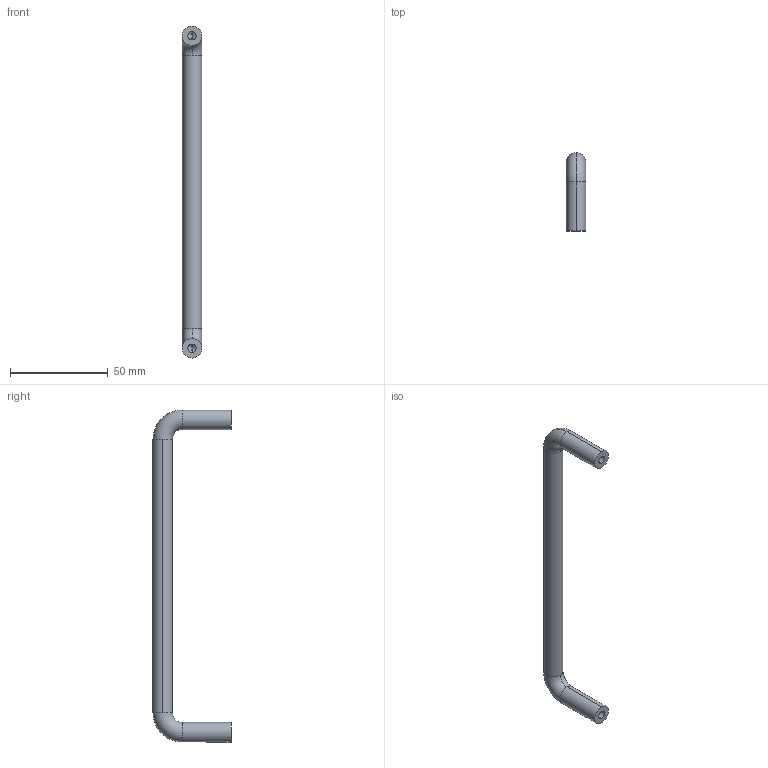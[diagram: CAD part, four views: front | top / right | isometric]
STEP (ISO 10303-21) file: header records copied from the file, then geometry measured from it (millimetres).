
FILE_DESCRIPTION (( 'STEP AP203' ), '1' );
FILE_NAME ('E03-503160.STEP', '2023-04-20T06:44:33', ( '' ), ( '' ), 'SwSTEP 2.0', 'SolidWorks 2021', '' );
FILE_SCHEMA (( 'CONFIG_CONTROL_DESIGN' ));
Length unit declared in the file: millimetre
Products named in the file (1): E03-503160
Bounding box: 10 x 40 x 170 mm (x, y, z)
Volume: 16990.4 mm3; surface area: 7487.1 mm2
Topology: 1 solids, 1 shells, 20 faces, 46 edges, 26 vertices
Faces by surface type: cylinder 10, torus 4, cone 4, plane 2
Entity records: 623 total; most frequent: DIRECTION 112, CARTESIAN_POINT 89, ORIENTED_EDGE 84, AXIS2_PLACEMENT_3D 49, EDGE_CURVE 42, CIRCLE 28, VERTEX_POINT 26, EDGE_LOOP 22
